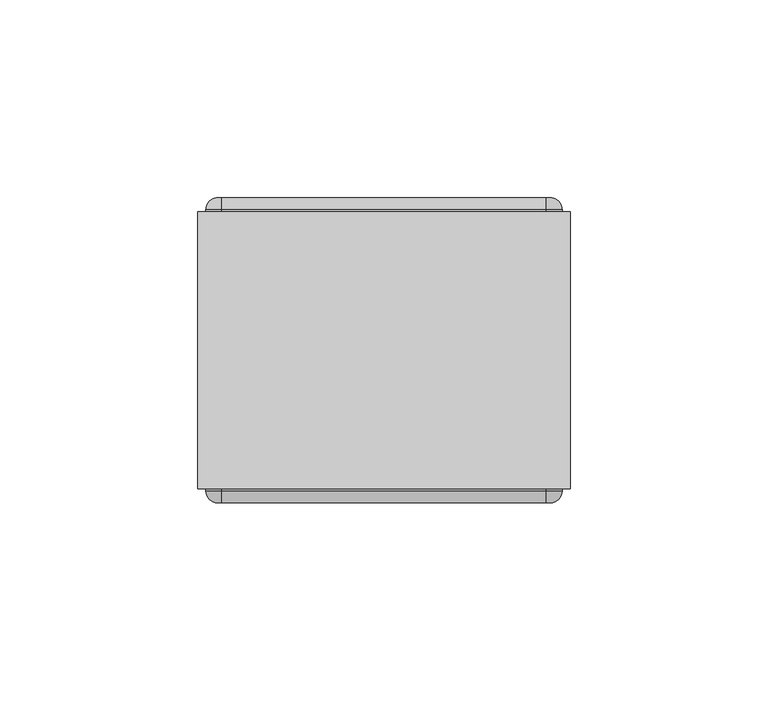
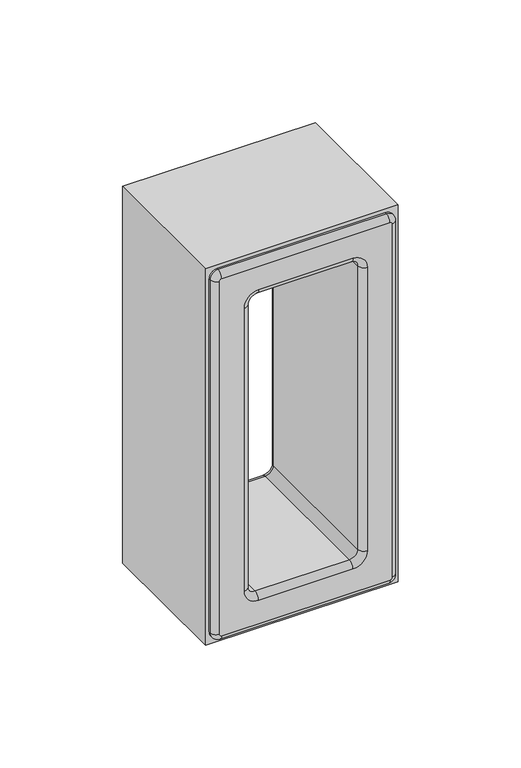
"""IFC4 building model written with IfcOpenShell, lengths in millimetres: proxy geometry, PBSHOP - ON FIRE AURORA 9X19 (COBOGO) : AURORA."""

from ifc_helpers import new_model, si_unit, point, frame, frame_2d, origin, place, context, project, spatial, polyline, circle_curve, ellipse_curve, trimmed, segment, composite_curve, outline, extrude, source, transform, mapped, element, save
from ifc_brep_helpers import plane_surface, cylinder_surface, revolved_surface, advanced_brep


def generic_models_c63592ce(model_context):
    return source(origin(), model_context, "Body", "SolidModel", [
        advanced_brep(
        [(-42.0, -38.5, 6.0), (-41.0, -38.5, 5.0), (41.0, -38.5, 5.0), (42.0, -38.5, 6.0), (42.0, -38.5, 188.0), (41.0, -38.5, 189.0), (-41.0, -38.5, 189.0), (-42.0, -38.5, 188.0), (-30.0, -38.5, 170.0), (-23.0, -38.5, 177.0), (23.0, -38.5, 177.0), (30.0, -38.5, 170.0), (30.0, -38.5, 24.0), (23.0, -38.5, 17.0), (-23.0, -38.5, 17.0), (-30.0, -38.5, 24.0), (-41.0, 38.5, 5.0), (-42.0, 38.5, 6.0), (-42.0, 38.5, 188.0), (-41.0, 38.5, 189.0), (41.0, 38.5, 189.0), (42.0, 38.5, 188.0), (42.0, 38.5, 6.0), (41.0, 38.5, 5.0), (-23.0, 38.5, 177.0), (-30.0, 38.5, 170.0), (-30.0, 38.5, 24.0), (-23.0, 38.5, 17.0), (23.0, 38.5, 17.0), (30.0, 38.5, 24.0), (30.0, 38.5, 170.0), (23.0, 38.5, 177.0), (-27.0, -35.5000028, 24.0), (-27.0, 35.5, 24.0), (-27.0, 35.5, 170.0), (-27.0, -35.5000017, 170.0), (-23.0, 35.5, 174.0), (-23.0, -35.5000019, 174.0), (23.0, 35.5, 174.0), (23.0, -35.5, 174.0), (27.0, 35.5, 170.0), (27.0, -35.5000017, 170.0), (27.0, 35.5, 24.0), (27.0, -35.5, 24.0), (23.0, 35.5, 20.0), (23.0, -35.5000017, 20.0), (-23.0, 35.5, 20.0), (-23.0, -35.5, 20.0), (45.0, -35.5, 6.0), (45.0, 35.5, 6.0), (45.0, 35.5, 188.0), (45.0, -35.5, 188.0), (41.0, 35.5, 192.0), (41.0, -35.5, 192.0), (-41.0, 35.5, 192.0), (-41.0, -35.5, 192.0), (-45.0, 35.5, 188.0), (-45.0, -35.5, 188.0), (-45.0, 35.5, 6.0), (-45.0, -35.5, 6.0), (-41.0, 35.5, 2.0), (-41.0, -35.5, 2.0), (41.0, 35.5, 2.0), (41.0, -35.5, 2.0)],
        [
            (0, 1, circle_curve(frame((-41.0, -38.5, 6.0), z_axis=(0.0, -1.0, 0.0), x_axis=(-1.0, 0.0, 0.0)), 1.0)),
            (1, 2),
            (2, 3, circle_curve(frame((41.0, -38.5, 6.0), z_axis=(0.0, -1.0, 0.0), x_axis=(0.0, 0.0, -1.0)), 1.0)),
            (3, 4),
            (4, 5, circle_curve(frame((41.0, -38.5, 188.0), z_axis=(0.0, -1.0, 0.0), x_axis=(1.0, 0.0, 0.0)), 1.0)),
            (5, 6),
            (6, 7, circle_curve(frame((-41.0, -38.5, 188.0), z_axis=(0.0, -1.0, 0.0), x_axis=(0.0, 0.0, 1.0)), 1.0)),
            (7, 0),
            (8, 9, circle_curve(frame((-23.0, -38.5, 170.0), z_axis=(0.0, 1.0, 0.0), x_axis=(-1.0, 0.0, 0.0)), 7.0)),
            (9, 10),
            (10, 11, circle_curve(frame((23.0, -38.5, 170.0), z_axis=(0.0, 1.0, 0.0), x_axis=(0.0, 0.0, 1.0)), 7.0)),
            (11, 12),
            (12, 13, circle_curve(frame((23.0, -38.5, 24.0), z_axis=(0.0, 1.0, 0.0), x_axis=(1.0, 0.0, 0.0)), 7.0)),
            (13, 14),
            (14, 15, circle_curve(frame((-23.0, -38.5, 24.0), z_axis=(0.0, 1.0, 0.0), x_axis=(0.0, 0.0, -1.0)), 7.0)),
            (15, 8),
            (16, 17, circle_curve(frame((-41.0, 38.5, 6.0), z_axis=(0.0, 1.0, 0.0), x_axis=(-1.0, 0.0, 0.0)), 1.0)),
            (17, 18),
            (18, 19, circle_curve(frame((-41.0, 38.5, 188.0), z_axis=(0.0, 1.0, 0.0), x_axis=(0.0, 0.0, 1.0)), 1.0)),
            (19, 20),
            (20, 21, circle_curve(frame((41.0, 38.5, 188.0), z_axis=(0.0, 1.0, 0.0), x_axis=(1.0, 0.0, 0.0)), 1.0)),
            (21, 22),
            (22, 23, circle_curve(frame((41.0, 38.5, 6.0), z_axis=(0.0, 1.0, 0.0), x_axis=(0.0, 0.0, -1.0)), 1.0)),
            (23, 16),
            (24, 25, circle_curve(frame((-23.0, 38.5, 170.0), z_axis=(0.0, -1.0, 0.0), x_axis=(-1.0, 0.0, 0.0)), 7.0)),
            (25, 26),
            (26, 27, circle_curve(frame((-23.0, 38.5, 24.0), z_axis=(0.0, -1.0, 0.0), x_axis=(0.0, 0.0, -1.0)), 7.0)),
            (27, 28),
            (28, 29, circle_curve(frame((23.0, 38.5, 24.0), z_axis=(0.0, -1.0, 0.0), x_axis=(1.0, 0.0, 0.0)), 7.0)),
            (29, 30),
            (30, 31, circle_curve(frame((23.0, 38.5, 170.0), z_axis=(0.0, -1.0, 0.0), x_axis=(0.0, 0.0, 1.0)), 7.0)),
            (31, 24),
            (32, 33),
            (33, 34),
            (34, 35),
            (35, 32),
            (34, 36, circle_curve(frame((-23.0, 35.5, 170.0), z_axis=(0.0, 1.0, 0.0), x_axis=(1.0, 0.0, 0.0)), 4.0)),
            (36, 37),
            (37, 35, circle_curve(frame((-23.0, -35.5, 170.0), z_axis=(0.0, -1.0, 0.0), x_axis=(1.0, 0.0, 0.0)), 4.0)),
            (36, 38),
            (38, 39),
            (39, 37),
            (38, 40, circle_curve(frame((23.0, 35.5, 170.0), z_axis=(0.0, 1.0, 0.0), x_axis=(1.0, 0.0, 0.0)), 4.0)),
            (40, 41),
            (41, 39, circle_curve(frame((23.0, -35.5, 170.0), z_axis=(0.0, -1.0, 0.0), x_axis=(1.0, 0.0, 0.0)), 4.0)),
            (40, 42),
            (42, 43),
            (43, 41),
            (42, 44, circle_curve(frame((23.0, 35.5, 24.0), z_axis=(0.0, 1.0, 0.0), x_axis=(1.0, 0.0, 0.0)), 4.0)),
            (44, 45),
            (45, 43, circle_curve(frame((23.0, -35.5, 24.0), z_axis=(0.0, -1.0, 0.0), x_axis=(1.0, 0.0, 0.0)), 4.0)),
            (44, 46),
            (46, 47),
            (47, 45),
            (32, 47, circle_curve(frame((-23.0, -35.5, 24.0), z_axis=(0.0, -1.0, 0.0), x_axis=(1.0, 0.0, 0.0)), 4.0)),
            (46, 33, circle_curve(frame((-23.0, 35.5, 24.0), z_axis=(0.0, 1.0, 0.0), x_axis=(1.0, 0.0, 0.0)), 4.0)),
            (48, 49),
            (49, 50),
            (50, 51),
            (51, 48),
            (50, 52, circle_curve(frame((41.0, 35.5, 188.0), z_axis=(0.0, -1.0, 0.0), x_axis=(1.0, 0.0, 0.0)), 4.0)),
            (52, 53),
            (53, 51, circle_curve(frame((41.0, -35.5, 188.0), z_axis=(0.0, 1.0, 0.0), x_axis=(1.0, 0.0, 0.0)), 4.0)),
            (52, 54),
            (54, 55),
            (55, 53),
            (54, 56, circle_curve(frame((-41.0, 35.5, 188.0), z_axis=(0.0, -1.0, 0.0), x_axis=(1.0, 0.0, 0.0)), 4.0)),
            (56, 57),
            (57, 55, circle_curve(frame((-41.0, -35.5, 188.0), z_axis=(0.0, 1.0, 0.0), x_axis=(1.0, 0.0, 0.0)), 4.0)),
            (56, 58),
            (58, 59),
            (59, 57),
            (58, 60, circle_curve(frame((-41.0, 35.5, 6.0), z_axis=(0.0, -1.0, 0.0), x_axis=(1.0, 0.0, 0.0)), 4.0)),
            (60, 61),
            (61, 59, circle_curve(frame((-41.0, -35.5, 6.0), z_axis=(0.0, 1.0, 0.0), x_axis=(1.0, 0.0, 0.0)), 4.0)),
            (60, 62),
            (62, 63),
            (63, 61),
            (48, 63, circle_curve(frame((41.0, -35.5, 6.0), z_axis=(0.0, 1.0, 0.0), x_axis=(1.0, 0.0, 0.0)), 4.0)),
            (62, 49, circle_curve(frame((41.0, 35.5, 6.0), z_axis=(0.0, -1.0, 0.0), x_axis=(1.0, 0.0, 0.0)), 4.0)),
            (61, 1, circle_curve(frame((-41.0, -35.5, 5.0), z_axis=(-1.0, 0.0, 0.0), x_axis=(0.0, 0.0, -1.0)), 3.0)),
            (0, 59, circle_curve(frame((-42.0, -35.5, 6.0), z_axis=(0.0, 0.0, -1.0), x_axis=(-1.0, 0.0, 0.0)), 3.0)),
            (16, 60, circle_curve(frame((-41.0, 35.5, 5.0), z_axis=(-1.0, 0.0, 0.0), x_axis=(0.0, 0.0, -1.0)), 3.0)),
            (58, 17, circle_curve(frame((-42.0, 35.5, 6.0), z_axis=(0.0, 0.0, -1.0), x_axis=(-1.0, 0.0, 0.0)), 3.0)),
            (63, 2, circle_curve(frame((41.0, -35.5, 5.0), z_axis=(-1.0, 0.0, 0.0), x_axis=(0.0, 0.0, -1.0)), 3.0)),
            (23, 62, circle_curve(frame((41.0, 35.5, 5.0), z_axis=(-1.0, 0.0, 0.0), x_axis=(0.0, 0.0, -1.0)), 3.0)),
            (48, 3, circle_curve(frame((42.0, -35.5, 6.0), z_axis=(0.0, 0.0, -1.0), x_axis=(1.0, 0.0, 0.0)), 3.0)),
            (22, 49, circle_curve(frame((42.0, 35.5, 6.0), z_axis=(0.0, 0.0, -1.0), x_axis=(1.0, 0.0, 0.0)), 3.0)),
            (51, 4, circle_curve(frame((42.0, -35.5, 188.0), z_axis=(0.0, 0.0, -1.0), x_axis=(1.0, 0.0, 0.0)), 3.0)),
            (21, 50, circle_curve(frame((42.0, 35.5, 188.0), z_axis=(0.0, 0.0, -1.0), x_axis=(1.0, 0.0, 0.0)), 3.0)),
            (53, 5, circle_curve(frame((41.0, -35.5, 189.0), z_axis=(1.0, 0.0, 0.0), x_axis=(0.0, 0.0, 1.0)), 3.0)),
            (20, 52, circle_curve(frame((41.0, 35.5, 189.0), z_axis=(1.0, 0.0, 0.0), x_axis=(0.0, 0.0, 1.0)), 3.0)),
            (55, 6, circle_curve(frame((-41.0, -35.5, 189.0), z_axis=(1.0, 0.0, 0.0), x_axis=(0.0, 0.0, 1.0)), 3.0)),
            (19, 54, circle_curve(frame((-41.0, 35.5, 189.0), z_axis=(1.0, 0.0, 0.0), x_axis=(0.0, 0.0, 1.0)), 3.0)),
            (57, 7, circle_curve(frame((-42.0, -35.5, 188.0), z_axis=(0.0, 0.0, 1.0), x_axis=(-1.0, 0.0, 0.0)), 3.0)),
            (18, 56, circle_curve(frame((-42.0, 35.5, 188.0), z_axis=(0.0, 0.0, 1.0), x_axis=(-1.0, 0.0, 0.0)), 3.0)),
            (37, 9, circle_curve(frame((-23.0, -35.5, 177.0), z_axis=(-1.0, 0.0, 0.0), x_axis=(0.0, -1.0, 0.0)), 3.0)),
            (8, 35, circle_curve(frame((-30.0, -35.5, 170.0), z_axis=(0.0, 0.0, 1.0), x_axis=(0.0, -1.0, 0.0)), 3.0)),
            (24, 36, circle_curve(frame((-23.0, 35.5, 177.0), z_axis=(-1.0, 0.0, 0.0), x_axis=(0.0, -1.0, 0.0)), 3.0)),
            (34, 25, circle_curve(frame((-30.0, 35.5, 170.0), z_axis=(0.0, 0.0, 1.0), x_axis=(0.0, -1.0, 0.0)), 3.0)),
            (39, 10, circle_curve(frame((23.0, -35.5, 177.0), z_axis=(-1.0, 0.0, 0.0), x_axis=(0.0, -1.0, 0.0)), 3.0)),
            (31, 38, circle_curve(frame((23.0, 35.5, 177.0), z_axis=(-1.0, 0.0, 0.0), x_axis=(0.0, -1.0, 0.0)), 3.0)),
            (41, 11, circle_curve(frame((30.0, -35.5, 170.0), z_axis=(0.0, 0.0, 1.0), x_axis=(0.0, -1.0, 0.0)), 3.0)),
            (30, 40, circle_curve(frame((30.0, 35.5, 170.0), z_axis=(0.0, 0.0, 1.0), x_axis=(0.0, -1.0, 0.0)), 3.0)),
            (43, 12, circle_curve(frame((30.0, -35.5, 24.0), z_axis=(0.0, 0.0, 1.0), x_axis=(0.0, -1.0, 0.0)), 3.0)),
            (29, 42, circle_curve(frame((30.0, 35.5, 24.0), z_axis=(0.0, 0.0, 1.0), x_axis=(0.0, -1.0, 0.0)), 3.0)),
            (45, 13, circle_curve(frame((23.0, -35.5, 17.0), z_axis=(1.0, 0.0, 0.0), x_axis=(0.0, -1.0, 0.0)), 3.0)),
            (28, 44, circle_curve(frame((23.0, 35.5, 17.0), z_axis=(1.0, 0.0, 0.0), x_axis=(0.0, -1.0, 0.0)), 3.0)),
            (47, 14, circle_curve(frame((-23.0, -35.5, 17.0), z_axis=(1.0, 0.0, 0.0), x_axis=(0.0, -1.0, 0.0)), 3.0)),
            (27, 46, circle_curve(frame((-23.0, 35.5, 17.0), z_axis=(1.0, 0.0, 0.0), x_axis=(0.0, -1.0, 0.0)), 3.0)),
            (32, 15, circle_curve(frame((-30.0, -35.5, 24.0), z_axis=(0.0, 0.0, -1.0), x_axis=(0.0, -1.0, 0.0)), 3.0)),
            (26, 33, circle_curve(frame((-30.0, 35.5, 24.0), z_axis=(0.0, 0.0, -1.0), x_axis=(0.0, -1.0, 0.0)), 3.0)),
        ],
        [
            plane_surface(frame((-27.0, -38.5, 150.0), z_axis=(0.0, -1.0, 0.0), x_axis=(0.0, 0.0, 1.0))),
            plane_surface(frame((-27.0, 38.5, 150.0), z_axis=(0.0, 1.0, 0.0), x_axis=(0.0, 0.0, -1.0))),
            plane_surface(frame((-27.0, -38.5, 24.0), z_axis=(1.0, 0.0, 0.0), x_axis=(0.0, 1.0, 0.0))),
            revolved_surface(polyline([(-19.0, 35.5, 170.0), (-19.0, -35.5000019, 170.0)]), (-23.0, 38.5, 170.0), (0.0, 1.0, 0.0)),
            plane_surface(frame((-23.0, -38.5, 174.0), z_axis=(0.0, 0.0, -1.0), x_axis=(0.0, 1.0, 0.0))),
            revolved_surface(polyline([(27.0, 35.5, 170.0), (27.0, -35.5000017, 170.0)]), (23.0, 38.5, 170.0), (0.0, 1.0, 0.0)),
            plane_surface(frame((27.0, -38.5, 170.0), z_axis=(-1.0, 0.0, 0.0), x_axis=(0.0, 1.0, 0.0))),
            revolved_surface(polyline([(27.0, 35.5, 24.0), (27.0, -35.5000017, 24.0)]), (23.0, 38.5, 24.0), (0.0, 1.0, 0.0)),
            plane_surface(frame((23.0, -38.5, 20.0), z_axis=(0.0, 0.0, 1.0), x_axis=(0.0, 1.0, 0.0))),
            revolved_surface(polyline([(-19.0, 35.5, 24.0), (-19.0, -35.500002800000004, 24.0)]), (-23.0, 38.5, 24.0), (0.0, 1.0, 0.0)),
            plane_surface(frame((45.0, -38.5, 6.0), z_axis=(1.0, 0.0, 0.0), x_axis=(0.0, 1.0, 0.0))),
            cylinder_surface(frame((41.0, 0.0, 188.0), z_axis=(0.0, -1.0, 0.0), x_axis=(1.0, 0.0, 0.0)), 4.0),
            plane_surface(frame((41.0, -38.5, 192.0), z_axis=(0.0, 0.0, 1.0), x_axis=(0.0, 1.0, 0.0))),
            cylinder_surface(frame((-41.0, 0.0, 188.0), z_axis=(0.0, -1.0, 0.0), x_axis=(1.0, 0.0, 0.0)), 4.0),
            plane_surface(frame((-45.0, -38.5, 188.0), z_axis=(-1.0, 0.0, 0.0), x_axis=(0.0, 1.0, 0.0))),
            cylinder_surface(frame((-41.0, 0.0, 6.0), z_axis=(0.0, -1.0, 0.0), x_axis=(1.0, 0.0, 0.0)), 4.0),
            plane_surface(frame((-41.0, -38.5, 2.0), z_axis=(0.0, 0.0, -1.0), x_axis=(0.0, 1.0, 0.0))),
            cylinder_surface(frame((41.0, 0.0, 6.0), z_axis=(0.0, -1.0, 0.0), x_axis=(1.0, 0.0, 0.0)), 4.0),
            revolved_surface(trimmed(ellipse_curve(frame((-42.0, -35.5, 6.0), z_axis=(0.0, 0.0, 1.0), x_axis=(-1.0, 0.0, 0.0)), 3.0, 3.0), [point((-45.0, -35.5, 6.0))], [point((-42.0, -38.5, 6.0))], True, "CARTESIAN"), (-41.0, -38.5, 6.0), (0.0, -1.0, 0.0)),
            revolved_surface(trimmed(ellipse_curve(frame((-42.0, 35.5, 6.0), z_axis=(0.0, 0.0, 1.0), x_axis=(-1.0, 0.0, 0.0)), 3.0, 3.0), [point((-42.0, 38.5, 6.0))], [point((-45.0, 35.5, 6.0))], True, "CARTESIAN"), (-41.0, -38.5, 6.0), (0.0, -1.0, 0.0)),
            cylinder_surface(frame((-41.0, -35.5, 5.0), z_axis=(1.0, 0.0, 0.0), x_axis=(0.0, 0.0, -1.0)), 3.0),
            cylinder_surface(frame((-41.0, 35.5, 5.0), z_axis=(1.0, 0.0, 0.0), x_axis=(0.0, 0.0, -1.0)), 3.0),
            revolved_surface(trimmed(ellipse_curve(frame((41.0, -35.5, 5.0), z_axis=(-1.0, 0.0, 0.0), x_axis=(0.0, 0.0, -1.0)), 3.0, 3.0), [point((41.0, -35.5, 2.0))], [point((41.0, -38.5, 5.0))], True, "CARTESIAN"), (41.0, -38.5, 6.0), (0.0, -1.0, 0.0)),
            revolved_surface(trimmed(ellipse_curve(frame((41.0, 35.5, 5.0), z_axis=(-1.0, 0.0, 0.0), x_axis=(0.0, 0.0, -1.0)), 3.0, 3.0), [point((41.0, 38.5, 5.0))], [point((41.0, 35.5, 2.0))], True, "CARTESIAN"), (41.0, -38.5, 6.0), (0.0, -1.0, 0.0)),
            cylinder_surface(frame((42.0, -35.5, 6.0), z_axis=(0.0, 0.0, 1.0), x_axis=(1.0, 0.0, 0.0)), 3.0),
            cylinder_surface(frame((42.0, 35.5, 6.0), z_axis=(0.0, 0.0, 1.0), x_axis=(1.0, 0.0, 0.0)), 3.0),
            revolved_surface(trimmed(ellipse_curve(frame((42.0, -35.5, 188.0), z_axis=(0.0, 0.0, -1.0), x_axis=(1.0, 0.0, 0.0)), 3.0, 3.0), [point((45.0, -35.5, 188.0))], [point((42.0, -38.5, 188.0))], True, "CARTESIAN"), (41.0, -38.5, 188.0), (0.0, -1.0, 0.0)),
            revolved_surface(trimmed(ellipse_curve(frame((42.0, 35.5, 188.0), z_axis=(0.0, 0.0, -1.0), x_axis=(1.0, 0.0, 0.0)), 3.0, 3.0), [point((42.0, 38.5, 188.0))], [point((45.0, 35.5, 188.0))], True, "CARTESIAN"), (41.0, -38.5, 188.0), (0.0, -1.0, 0.0)),
            cylinder_surface(frame((41.0, -35.5, 189.0), z_axis=(-1.0, 0.0, 0.0), x_axis=(0.0, 0.0, 1.0)), 3.0),
            cylinder_surface(frame((41.0, 35.5, 189.0), z_axis=(-1.0, 0.0, 0.0), x_axis=(0.0, 0.0, 1.0)), 3.0),
            revolved_surface(trimmed(ellipse_curve(frame((-41.0, -35.5, 189.0), z_axis=(1.0, 0.0, 0.0), x_axis=(0.0, 0.0, 1.0)), 3.0, 3.0), [point((-41.0, -35.5, 192.0))], [point((-41.0, -38.5, 189.0))], True, "CARTESIAN"), (-41.0, -38.5, 188.0), (0.0, -1.0, 0.0)),
            revolved_surface(trimmed(ellipse_curve(frame((-41.0, 35.5, 189.0), z_axis=(1.0, 0.0, 0.0), x_axis=(0.0, 0.0, 1.0)), 3.0, 3.0), [point((-41.0, 38.5, 189.0))], [point((-41.0, 35.5, 192.0))], True, "CARTESIAN"), (-41.0, -38.5, 188.0), (0.0, -1.0, 0.0)),
            cylinder_surface(frame((-42.0, -35.5, 188.0), z_axis=(0.0, 0.0, -1.0), x_axis=(-1.0, 0.0, 0.0)), 3.0),
            cylinder_surface(frame((-42.0, 35.5, 188.0), z_axis=(0.0, 0.0, -1.0), x_axis=(-1.0, 0.0, 0.0)), 3.0),
            revolved_surface(trimmed(ellipse_curve(frame((-30.0, -35.5, 170.0), z_axis=(0.0, 0.0, -1.0), x_axis=(0.0, -1.0, 0.0)), 3.0, 3.0), [point((-27.0, -35.5, 170.0))], [point((-30.0, -38.5, 170.0))], True, "CARTESIAN"), (-23.0, -38.5, 170.0), (0.0, 1.0, 0.0)),
            revolved_surface(trimmed(ellipse_curve(frame((-30.0, 35.5, 170.0), z_axis=(0.0, 0.0, -1.0), x_axis=(0.0, -1.0, 0.0)), 3.0, 3.0), [point((-30.0, 38.5, 170.0))], [point((-27.0, 35.5, 170.0))], True, "CARTESIAN"), (-23.0, -38.5, 170.0), (0.0, 1.0, 0.0)),
            cylinder_surface(frame((-23.0, -35.5, 177.0), z_axis=(1.0, 0.0, 0.0), x_axis=(0.0, -1.0, 0.0)), 3.0),
            cylinder_surface(frame((-23.0, 35.5, 177.0), z_axis=(1.0, 0.0, 0.0), x_axis=(0.0, -1.0, 0.0)), 3.0),
            revolved_surface(trimmed(ellipse_curve(frame((23.0, -35.5, 177.0), z_axis=(-1.0, 0.0, 0.0), x_axis=(0.0, -1.0, 0.0)), 3.0, 3.0), [point((23.0, -35.5, 174.0))], [point((23.0, -38.5, 177.0))], True, "CARTESIAN"), (23.0, -38.5, 170.0), (0.0, 1.0, 0.0)),
            revolved_surface(trimmed(ellipse_curve(frame((23.0, 35.5, 177.0), z_axis=(-1.0, 0.0, 0.0), x_axis=(0.0, -1.0, 0.0)), 3.0, 3.0), [point((23.0, 38.5, 177.0))], [point((23.0, 35.5, 174.0))], True, "CARTESIAN"), (23.0, -38.5, 170.0), (0.0, 1.0, 0.0)),
            cylinder_surface(frame((30.0, -35.5, 170.0), z_axis=(0.0, 0.0, -1.0), x_axis=(0.0, -1.0, 0.0)), 3.0),
            cylinder_surface(frame((30.0, 35.5, 170.0), z_axis=(0.0, 0.0, -1.0), x_axis=(0.0, -1.0, 0.0)), 3.0),
            revolved_surface(trimmed(ellipse_curve(frame((30.0, -35.5, 24.0), z_axis=(0.0, 0.0, 1.0), x_axis=(0.0, -1.0, 0.0)), 3.0, 3.0), [point((27.0, -35.5, 24.0))], [point((30.0, -38.5, 24.0))], True, "CARTESIAN"), (23.0, -38.5, 24.0), (0.0, 1.0, 0.0)),
            revolved_surface(trimmed(ellipse_curve(frame((30.0, 35.5, 24.0), z_axis=(0.0, 0.0, 1.0), x_axis=(0.0, -1.0, 0.0)), 3.0, 3.0), [point((30.0, 38.5, 24.0))], [point((27.0, 35.5, 24.0))], True, "CARTESIAN"), (23.0, -38.5, 24.0), (0.0, 1.0, 0.0)),
            cylinder_surface(frame((23.0, -35.5, 17.0), z_axis=(-1.0, 0.0, 0.0), x_axis=(0.0, -1.0, 0.0)), 3.0),
            cylinder_surface(frame((23.0, 35.5, 17.0), z_axis=(-1.0, 0.0, 0.0), x_axis=(0.0, -1.0, 0.0)), 3.0),
            revolved_surface(trimmed(ellipse_curve(frame((-23.0, -35.5, 17.0), z_axis=(1.0, 0.0, 0.0), x_axis=(0.0, -1.0, 0.0)), 3.0, 3.0), [point((-23.0, -35.5, 20.0))], [point((-23.0, -38.5, 17.0))], True, "CARTESIAN"), (-23.0, -38.5, 24.0), (0.0, 1.0, 0.0)),
            revolved_surface(trimmed(ellipse_curve(frame((-23.0, 35.5, 17.0), z_axis=(1.0, 0.0, 0.0), x_axis=(0.0, -1.0, 0.0)), 3.0, 3.0), [point((-23.0, 38.5, 17.0))], [point((-23.0, 35.5, 20.0))], True, "CARTESIAN"), (-23.0, -38.5, 24.0), (0.0, 1.0, 0.0)),
            cylinder_surface(frame((-30.0, -35.5, 24.0), z_axis=(0.0, 0.0, 1.0), x_axis=(0.0, -1.0, 0.0)), 3.0),
            cylinder_surface(frame((-30.0, 35.5, 24.0), z_axis=(0.0, 0.0, 1.0), x_axis=(0.0, -1.0, 0.0)), 3.0),
        ],
        [
            (0, [[1, 2, 3, 4, 5, 6, 7, 8], [9, 10, 11, 12, 13, 14, 15, 16]]),
            (1, [[17, 18, 19, 20, 21, 22, 23, 24], [25, 26, 27, 28, 29, 30, 31, 32]]),
            (2, [[33, 34, 35, 36]]),
            (3, [[-35, 37, 38, 39]]),
            (4, [[-38, 40, 41, 42]]),
            (5, [[-41, 43, 44, 45]]),
            (6, [[-44, 46, 47, 48]]),
            (7, [[-47, 49, 50, 51]]),
            (8, [[-50, 52, 53, 54]]),
            (9, [[-33, 55, -53, 56]]),
            (10, [[57, 58, 59, 60]]),
            (11, [[-59, 61, 62, 63]]),
            (12, [[-62, 64, 65, 66]]),
            (13, [[-65, 67, 68, 69]]),
            (14, [[-68, 70, 71, 72]]),
            (15, [[-71, 73, 74, 75]]),
            (16, [[-74, 76, 77, 78]]),
            (17, [[-57, 79, -77, 80]]),
            (18, [[81, -1, 82, -75]]),
            (19, [[83, -73, 84, -17]]),
            (20, [[-81, -78, 85, -2]]),
            (21, [[-83, -24, 86, -76]]),
            (22, [[-85, -79, 87, -3]]),
            (23, [[-86, -23, 88, -80]]),
            (24, [[-87, -60, 89, -4]]),
            (25, [[-88, -22, 90, -58]]),
            (26, [[-89, -63, 91, -5]]),
            (27, [[-90, -21, 92, -61]]),
            (28, [[-91, -66, 93, -6]]),
            (29, [[-92, -20, 94, -64]]),
            (30, [[-93, -69, 95, -7]]),
            (31, [[-94, -19, 96, -67]]),
            (32, [[-82, -8, -95, -72]]),
            (33, [[-84, -70, -96, -18]]),
            (34, [[97, -9, 98, -39]]),
            (35, [[99, -37, 100, -25]]),
            (36, [[-97, -42, 101, -10]]),
            (37, [[-99, -32, 102, -40]]),
            (38, [[-101, -45, 103, -11]]),
            (39, [[-102, -31, 104, -43]]),
            (40, [[-103, -48, 105, -12]]),
            (41, [[-104, -30, 106, -46]]),
            (42, [[-105, -51, 107, -13]]),
            (43, [[-106, -29, 108, -49]]),
            (44, [[-107, -54, 109, -14]]),
            (45, [[-108, -28, 110, -52]]),
            (46, [[-109, -55, 111, -15]]),
            (47, [[-110, -27, 112, -56]]),
            (48, [[-98, -16, -111, -36]]),
            (49, [[-100, -34, -112, -26]]),
        ],
    ),
        extrude(outline(polyline([(194.0, -47.0), (0.0, -47.0), (0.0, 47.0), (194.0, 47.0), (194.0, -47.0)]), holes=[composite_curve([segment(trimmed(circle_curve(frame_2d((6.0, -41.0)), 4.0), [point((2.0, -41.0))], [point((6.0, -45.0))], True, "CARTESIAN"), True, "CONTINUOUS"), segment(polyline([(6.0, -45.0), (188.0, -45.0)]), True, "CONTINUOUS"), segment(trimmed(circle_curve(frame_2d((188.0, -41.0)), 4.0), [point((188.0, -45.0))], [point((192.0, -41.0))], True, "CARTESIAN"), True, "CONTINUOUS"), segment(polyline([(192.0, -41.0), (192.0, 41.0)]), True, "CONTINUOUS"), segment(trimmed(circle_curve(frame_2d((188.0, 41.0)), 4.0), [point((192.0, 41.0))], [point((188.0, 45.0))], True, "CARTESIAN"), True, "CONTINUOUS"), segment(polyline([(188.0, 45.0), (6.0, 45.0)]), True, "CONTINUOUS"), segment(trimmed(circle_curve(frame_2d((6.0, 41.0)), 4.0), [point((6.0, 45.0))], [point((2.0, 41.0))], True, "CARTESIAN"), True, "CONTINUOUS"), segment(polyline([(2.0, 41.0), (2.0, -41.0)]), True, "CONTINUOUS")], self_intersect=False)]), frame((0.0, -35.0, 0.0), z_axis=(0.0, 1.0, 0.0), x_axis=(0.0, 0.0, 1.0)), (0.0, 0.0, 1.0), 70.0),
    ])


if __name__ == "__main__":
    model = new_model("IFC4")
    model_context = context("Model", 3, world=origin())
    ifc_project = project(units=[si_unit("LENGTHUNIT", "METRE", prefix="MILLI")], contexts=[model_context])
    site = spatial("IfcSite", under=ifc_project)
    building = spatial("IfcBuilding", under=site)
    placement = place(None, origin())
    generic_models_shape = generic_models_c63592ce(model_context)
    element("IfcBuildingElementProxy", 1, Name="PBSHOP - ON FIRE AURORA 9X19 (COBOGO) : AURORA", ObjectType="PBSHOP - ON FIRE AURORA 9X19 (COBOGO) : AURORA", at=placement, inside=building, context=model_context, shape_type="MappedRepresentation", body=[
        mapped(generic_models_shape, transform((0.0, 0.0, 0.0), x_axis=(1.0, 0.0, 0.0), y_axis=(0.0, 1.0, 0.0), z_axis=(0.0, 0.0, 1.0))),
    ])
    save(model, "model.ifc")
